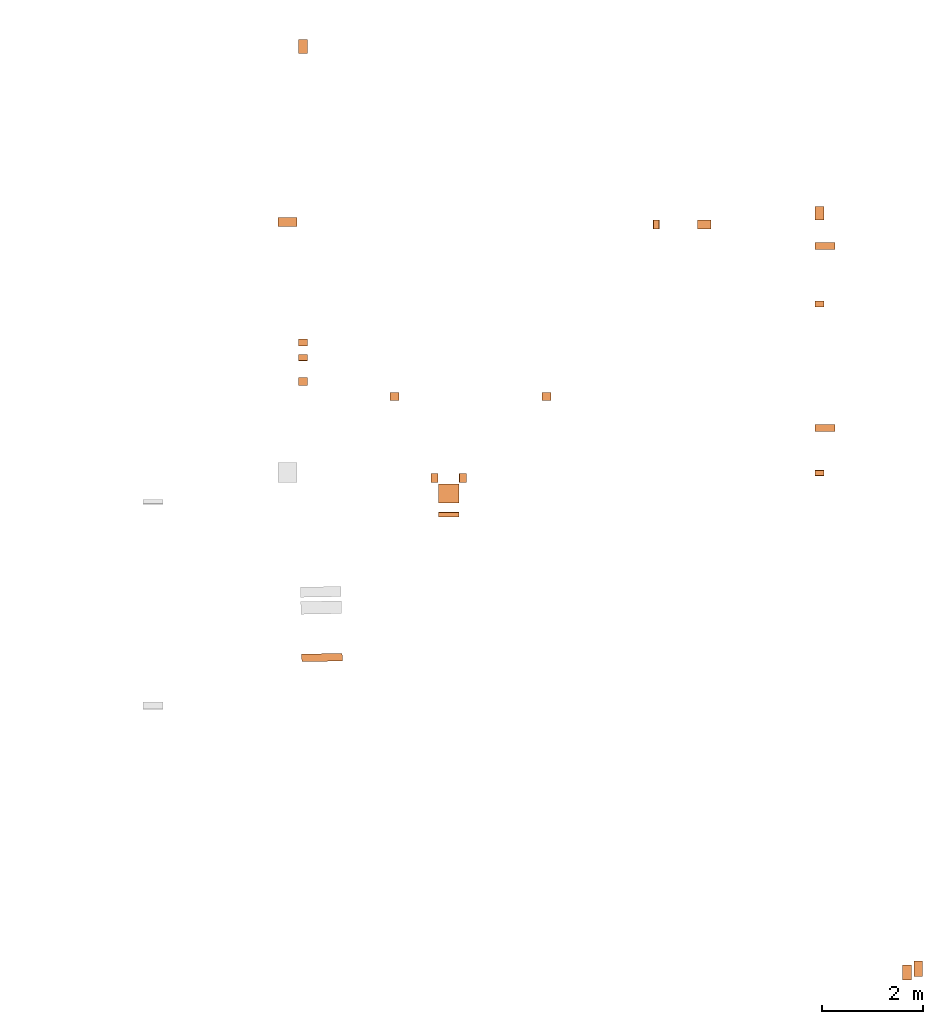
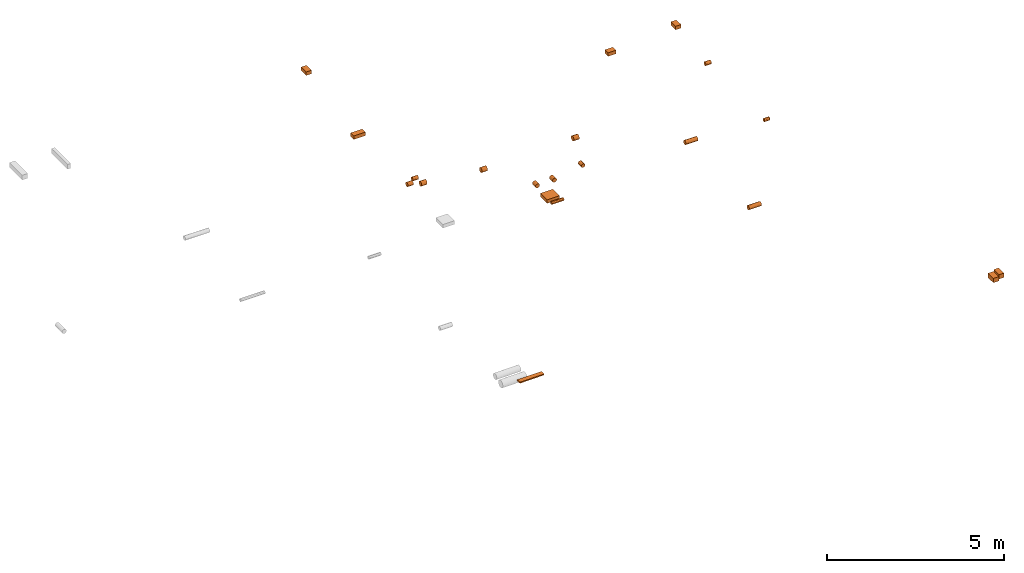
# One storey, part 6 of 7: 24 proxies.
"""IFC2X3 building model written with IfcOpenShell, lengths in centimetres."""

from ifc_helpers import new_model, entity, si_unit, converted_unit, derived_unit, direction, frame, frame_2d, origin, origin_2d_with_axis, place, context, subcontext, project, spatial, rectangle, circle, extrude, faceted_brep, source, transform, mapped, material, type_object, type_shapes, element, save


model = new_model("IFC2X3")

# Units and contexts
model_context = context("Model", 3, precision=0.001, world=origin(), true_north=direction((6.12303176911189e-17, 1.0)))
body_context = subcontext(model_context, "Body", "Model", "MODEL_VIEW")
ifc_project = project(units=[si_unit("LENGTHUNIT", "METRE", prefix="CENTI"), si_unit("AREAUNIT", "SQUARE_METRE"), si_unit("VOLUMEUNIT", "CUBIC_METRE"), converted_unit("PLANEANGLEUNIT", "DEGREE", entity("IfcRatioMeasure", 0.0174532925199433), si_unit("PLANEANGLEUNIT", "RADIAN"), dimensions=[0, 0, 0, 0, 0, 0, 0]), si_unit("MASSUNIT", "GRAM", prefix="KILO"), derived_unit("MASSDENSITYUNIT", [(si_unit("MASSUNIT", "GRAM", prefix="KILO"), 1), (si_unit("LENGTHUNIT", "METRE"), -3)]), si_unit("TIMEUNIT", "SECOND"), si_unit("FREQUENCYUNIT", "HERTZ"), si_unit("THERMODYNAMICTEMPERATUREUNIT", "DEGREE_CELSIUS"), derived_unit("THERMALTRANSMITTANCEUNIT", [(si_unit("MASSUNIT", "GRAM", prefix="KILO"), 1), (si_unit("THERMODYNAMICTEMPERATUREUNIT", "KELVIN"), -1), (si_unit("TIMEUNIT", "SECOND"), -3)]), derived_unit("VOLUMETRICFLOWRATEUNIT", [(si_unit("LENGTHUNIT", "METRE"), 3), (si_unit("TIMEUNIT", "SECOND"), -1)]), si_unit("ELECTRICCURRENTUNIT", "AMPERE"), si_unit("ELECTRICVOLTAGEUNIT", "VOLT"), si_unit("POWERUNIT", "WATT"), si_unit("FORCEUNIT", "NEWTON"), si_unit("ILLUMINANCEUNIT", "LUX"), si_unit("LUMINOUSFLUXUNIT", "LUMEN"), si_unit("LUMINOUSINTENSITYUNIT", "CANDELA"), derived_unit("USERDEFINED", [(si_unit("MASSUNIT", "GRAM", prefix="KILO"), -1), (si_unit("LENGTHUNIT", "METRE"), -2), (si_unit("TIMEUNIT", "SECOND"), 3), (si_unit("LUMINOUSFLUXUNIT", "LUMEN"), 1)]), derived_unit("LINEARVELOCITYUNIT", [(si_unit("LENGTHUNIT", "METRE"), 1), (si_unit("TIMEUNIT", "SECOND"), -1)]), si_unit("PRESSUREUNIT", "PASCAL"), derived_unit("USERDEFINED", [(si_unit("LENGTHUNIT", "METRE"), -2), (si_unit("MASSUNIT", "GRAM", prefix="KILO"), 1), (si_unit("TIMEUNIT", "SECOND"), -2)])], contexts=[model_context])

# Site, building, storey
site_placement = place(None, origin())
site = spatial("IfcSite", under=ifc_project, at=site_placement, Name="Default", CompositionType="ELEMENT")
building_placement = place(site_placement, origin())
building = spatial("IfcBuilding", under=site, at=building_placement, Name="CAGE 03", CompositionType="ELEMENT")
storey_placement = place(building_placement, origin())
storey = spatial("IfcBuildingStorey", under=building, at=storey_placement, Name="RDC", CompositionType="ELEMENT", Elevation=-1.08286712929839e-13)

# Proxies
ifc_material = material(Name="Verre")
building_element_proxy_type_1 = type_object("IfcBuildingElementProxyType", Name="Standard", PredefinedType="NOTDEFINED", material=ifc_material)
shared_shape_1 = source(origin(), body_context, "Body", "SweptSolid", [
    extrude(circle(Radius=8.0, at=frame_2d((4.97439393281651e-16, -3.60169955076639e-14), x_axis=(1.0, 0.0))), frame((0.0, -9.0, 0.0), z_axis=(0.0, 1.0, 0.0), x_axis=(1.0, 0.0, 0.0)), (0.0, 0.0, 1.0), 18.0000000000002),
])
type_shapes(building_element_proxy_type_1, [shared_shape_1])
proxy_1_placement = place(storey_placement, frame((10199.3658201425, 4551.174449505, 281.375909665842), z_axis=(0.0, 0.0, 1.0), x_axis=(0.0, 1.0, 0.0)))
element("IfcBuildingElementProxy", 1, at=proxy_1_placement, inside=storey, type_object=building_element_proxy_type_1, material=ifc_material, Name="RESERVATION CIRC_MUR:Standard", ObjectType="Standard", context=body_context, shape_type="MappedRepresentation", body=[
    mapped(shared_shape_1, transform((0.0, 0.0, 0.0), scale=1.0)),
])
building_element_proxy_type_2 = type_object("IfcBuildingElementProxyType", Name="Standard", PredefinedType="NOTDEFINED", material=ifc_material)
shared_shape_2 = source(origin(), body_context, "Body", "SweptSolid", [
    extrude(circle(Radius=8.0, at=frame_2d((4.97439393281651e-16, -3.60169955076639e-14), x_axis=(1.0, 0.0))), frame((0.0, -9.0, 0.0), z_axis=(0.0, 1.0, 0.0), x_axis=(1.0, 0.0, 0.0)), (0.0, 0.0, 1.0), 17.9999999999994),
])
type_shapes(building_element_proxy_type_2, [shared_shape_2])
proxy_2_placement = place(storey_placement, frame((10499.3658201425, 4551.174449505, 285.79850022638), z_axis=(0.0, 0.0, 1.0), x_axis=(0.0, 1.0, 0.0)))
element("IfcBuildingElementProxy", 2, at=proxy_2_placement, inside=storey, type_object=building_element_proxy_type_2, material=ifc_material, Name="RESERVATION CIRC_MUR:Standard", ObjectType="Standard", context=body_context, shape_type="MappedRepresentation", body=[
    mapped(shared_shape_2, transform((0.0, 0.0, 0.0), scale=1.0)),
])
building_element_proxy_type_3 = type_object("IfcBuildingElementProxyType", Name="Standard", PredefinedType="NOTDEFINED", material=ifc_material)
shared_shape_3 = source(origin(), body_context, "Body", "SweptSolid", [
    extrude(circle(Radius=6.99999999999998, at=frame_2d((-3.48550551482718e-16, -3.15148710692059e-14), x_axis=(1.0, 0.0))), frame((0.0, -9.0, 0.0), z_axis=(0.0, 1.0, 0.0), x_axis=(1.0, 0.0, 0.0)), (0.0, 0.0, 1.0), 17.9999999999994),
])
type_shapes(building_element_proxy_type_3, [shared_shape_3])
proxy_3_placement = place(storey_placement, frame((10278.5248687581, 4390.66066607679, 298.804303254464), z_axis=(0.0, 0.0, 1.0), x_axis=(-1.0, 0.0, 0.0)))
element("IfcBuildingElementProxy", 3, at=proxy_3_placement, inside=storey, type_object=building_element_proxy_type_3, material=ifc_material, Name="RESERVATION CIRC_MUR:Standard", ObjectType="Standard", context=body_context, shape_type="MappedRepresentation", body=[
    mapped(shared_shape_3, transform((0.0, 0.0, 0.0), scale=1.0)),
])
building_element_proxy_type_4 = type_object("IfcBuildingElementProxyType", Name="Standard", PredefinedType="NOTDEFINED", material=ifc_material)
shared_shape_4 = source(origin(), body_context, "Body", "SweptSolid", [
    extrude(circle(Radius=7.0, at=frame_2d((0.0, -4.06075173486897e-14), x_axis=(1.0, 0.0))), frame((11028.3658201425, 4848.14153004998, -96.9143133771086), z_axis=(1.0, 0.0, 0.0), x_axis=(0.0, -1.0, 0.0)), (0.0, 0.0, 1.0), 40.0000000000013),
])
type_shapes(building_element_proxy_type_4, [shared_shape_4])
proxy_4_placement = place(storey_placement, origin())
element("IfcBuildingElementProxy", 4, at=proxy_4_placement, inside=storey, type_object=building_element_proxy_type_4, material=ifc_material, Name="RESERVATION CIRC_MUR:Standard", ObjectType="Standard", context=body_context, shape_type="MappedRepresentation", body=[
    mapped(shared_shape_4, transform((0.0, 0.0, 0.0), scale=1.0)),
])
building_element_proxy_type_5 = type_object("IfcBuildingElementProxyType", Name="Standard", PredefinedType="NOTDEFINED", material=ifc_material)
shared_shape_5 = source(origin(), body_context, "Body", "SweptSolid", [
    extrude(circle(Radius=7.0, at=frame_2d((0.0, -4.06075173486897e-14), x_axis=(1.0, 0.0))), frame((11028.3658201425, 4489.26662740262, -104.298078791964), z_axis=(1.0, 0.0, 0.0), x_axis=(0.0, -1.0, 0.0)), (0.0, 0.0, 1.0), 40.0000000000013),
])
type_shapes(building_element_proxy_type_5, [shared_shape_5])
proxy_5_placement = place(storey_placement, origin())
element("IfcBuildingElementProxy", 5, at=proxy_5_placement, inside=storey, type_object=building_element_proxy_type_5, material=ifc_material, Name="RESERVATION CIRC_MUR:Standard", ObjectType="Standard", context=body_context, shape_type="MappedRepresentation", body=[
    mapped(shared_shape_5, transform((0.0, 0.0, 0.0), scale=1.0)),
])
building_element_proxy_type_6 = type_object("IfcBuildingElementProxyType", Name="Standard", PredefinedType="NOTDEFINED", material=ifc_material)
shared_shape_6 = source(origin(), body_context, "Body", "SweptSolid", [
    extrude(circle(Radius=6.25, at=frame_2d((0.0, -1.35358391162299e-14), x_axis=(1.0, 0.0))), frame((10715.9863716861, 4881.66066607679, -87.7200000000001), z_axis=(0.0, 1.0, 0.0), x_axis=(-1.0, 0.0, 0.0)), (0.0, 0.0, 1.0), 17.9999999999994),
])
type_shapes(building_element_proxy_type_6, [shared_shape_6])
proxy_6_placement = place(storey_placement, origin())
element("IfcBuildingElementProxy", 6, at=proxy_6_placement, inside=storey, type_object=building_element_proxy_type_6, material=ifc_material, Name="RESERVATION CIRC_MUR:Standard", ObjectType="Standard", context=body_context, shape_type="MappedRepresentation", body=[
    mapped(shared_shape_6, transform((0.0, 0.0, 0.0), scale=1.0)),
])
building_element_proxy_type_7 = type_object("IfcBuildingElementProxyType", Name="Standard", PredefinedType="NOTDEFINED", material=ifc_material)
shared_shape_7 = source(origin(), body_context, "Body", "SweptSolid", [
    extrude(circle(Radius=8.0, at=frame_2d((4.97439393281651e-16, -3.60169955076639e-14), x_axis=(1.0, 0.0))), frame((0.0, -9.0, 0.0), z_axis=(0.0, 1.0, 0.0), x_axis=(1.0, 0.0, 0.0)), (0.0, 0.0, 1.0), 17.9999999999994),
])
type_shapes(building_element_proxy_type_7, [shared_shape_7])
proxy_7_placement = place(storey_placement, frame((10019.3658201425, 4580.93360456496, 279.202377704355), z_axis=(0.0, 0.0, 1.0), x_axis=(0.0, 1.0, 0.0)))
element("IfcBuildingElementProxy", 7, at=proxy_7_placement, inside=storey, type_object=building_element_proxy_type_7, material=ifc_material, Name="RESERVATION CIRC_MUR1:Standard", ObjectType="Standard", context=body_context, shape_type="MappedRepresentation", body=[
    mapped(shared_shape_7, transform((0.0, 0.0, 0.0), scale=1.0)),
])
building_element_proxy_type_8 = type_object("IfcBuildingElementProxyType", Name="Standard", PredefinedType="NOTDEFINED", material=ifc_material)
shared_shape_8 = source(origin(), body_context, "Body", "SweptSolid", [
    extrude(circle(Radius=8.0, at=frame_2d((4.97439393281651e-16, -3.60169955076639e-14), x_axis=(1.0, 0.0))), frame((0.0, -9.0, 0.0), z_axis=(0.0, 1.0, 0.0), x_axis=(1.0, 0.0, 0.0)), (0.0, 0.0, 1.0), 17.9999999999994),
])
type_shapes(building_element_proxy_type_8, [shared_shape_8])
proxy_8_placement = place(storey_placement, frame((10199.3658201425, 4551.174449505, 281.375909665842), z_axis=(0.0, 0.0, 1.0), x_axis=(0.0, 1.0, 0.0)))
element("IfcBuildingElementProxy", 8, at=proxy_8_placement, inside=storey, type_object=building_element_proxy_type_8, material=ifc_material, Name="RESERVATION CIRC_MUR1:Standard", ObjectType="Standard", context=body_context, shape_type="MappedRepresentation", body=[
    mapped(shared_shape_8, transform((0.0, 0.0, 0.0), scale=1.0)),
])
building_element_proxy_type_9 = type_object("IfcBuildingElementProxyType", Name="Standard", PredefinedType="NOTDEFINED", material=ifc_material)
shared_shape_9 = source(origin(), body_context, "Body", "SweptSolid", [
    extrude(circle(Radius=8.0, at=frame_2d((4.97439393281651e-16, -3.60169955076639e-14), x_axis=(1.0, 0.0))), frame((0.0, -9.0, 0.0), z_axis=(0.0, 1.0, 0.0), x_axis=(1.0, 0.0, 0.0)), (0.0, 0.0, 1.0), 17.9999999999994),
])
type_shapes(building_element_proxy_type_9, [shared_shape_9])
proxy_9_placement = place(storey_placement, frame((10499.3658201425, 4551.174449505, 285.79850022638), z_axis=(0.0, 0.0, 1.0), x_axis=(0.0, 1.0, 0.0)))
element("IfcBuildingElementProxy", 9, at=proxy_9_placement, inside=storey, type_object=building_element_proxy_type_9, material=ifc_material, Name="RESERVATION CIRC_MUR1:Standard", ObjectType="Standard", context=body_context, shape_type="MappedRepresentation", body=[
    mapped(shared_shape_9, transform((0.0, 0.0, 0.0), scale=1.0)),
])
building_element_proxy_type_10 = type_object("IfcBuildingElementProxyType", Name="Standard", PredefinedType="NOTDEFINED", material=ifc_material)
shared_shape_10 = source(origin(), body_context, "Body", "SweptSolid", [
    extrude(circle(Radius=6.99999999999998, at=frame_2d((-3.48550551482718e-16, -3.15148710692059e-14), x_axis=(1.0, 0.0))), frame((0.0, -9.0, 0.0), z_axis=(0.0, 1.0, 0.0), x_axis=(1.0, 0.0, 0.0)), (0.0, 0.0, 1.0), 17.9999999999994),
])
type_shapes(building_element_proxy_type_10, [shared_shape_10])
for number, where, z_axis, x_axis, name in (
    (10, (10278.5248687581, 4390.66066607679, 298.804303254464), (0.0, 0.0, 1.0), (-1.0, 0.0, 0.0), "RESERVATION CIRC_MUR1:Standard"),
    (11, (10334.2276484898, 4390.66066607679, 298.804303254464), (0.0, 0.0, 1.0), (-1.0, 0.0, 0.0), "RESERVATION CIRC_MUR1:Standard"),
):
    element("IfcBuildingElementProxy", number, at=place(storey_placement, frame(where, z_axis=z_axis, x_axis=x_axis)), inside=storey, type_object=building_element_proxy_type_10, material=ifc_material, Name=name, ObjectType="Standard", context=body_context, shape_type="MappedRepresentation", body=[
        mapped(shared_shape_10, transform((0.0, 0.0, 0.0), scale=1.0)),
    ])
building_element_proxy_type_11 = type_object("IfcBuildingElementProxyType", Name="Standard", PredefinedType="NOTDEFINED", material=ifc_material)
shared_shape_11 = source(origin(), body_context, "Body", "SweptSolid", [
    extrude(rectangle(XDim=17.9999999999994, YDim=30.0000000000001, at=origin_2d_with_axis()), frame((11210.3658201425, 3415.87086734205, 235.513701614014)), (0.0, 0.0, 1.0), 15.0),
])
type_shapes(building_element_proxy_type_11, [shared_shape_11])
proxy_10_placement = place(storey_placement, origin())
element("IfcBuildingElementProxy", 12, at=proxy_10_placement, inside=storey, type_object=building_element_proxy_type_11, material=ifc_material, Name="RESERVATION RECT_MUR:Standard", ObjectType="Standard", context=body_context, shape_type="MappedRepresentation", body=[
    mapped(shared_shape_11, transform((0.0, 0.0, 0.0), scale=1.0)),
])
building_element_proxy_type_12 = type_object("IfcBuildingElementProxyType", Name="Standard", PredefinedType="NOTDEFINED", material=ifc_material)
shared_shape_12 = source(origin(), body_context, "Body", "SweptSolid", [
    extrude(circle(Radius=6.25, at=frame_2d((-3.48550551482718e-16, -2.81382777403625e-14), x_axis=(1.0, 0.0))), frame((0.0, -9.0, 0.0), z_axis=(0.0, 1.0, 0.0), x_axis=(1.0, 0.0, 0.0)), (0.0, 0.0, 1.0), 17.9999999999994),
])
type_shapes(building_element_proxy_type_12, [shared_shape_12])
proxy_11_placement = place(storey_placement, frame((11037.3658201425, 4733.6606661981, 244.761146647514), z_axis=(0.0, 0.0, 1.0), x_axis=(0.0, 1.0, 0.0)))
element("IfcBuildingElementProxy", 13, at=proxy_11_placement, inside=storey, type_object=building_element_proxy_type_12, material=ifc_material, Name="RESERVATION CIRC_MUR1:Standard", ObjectType="Standard", context=body_context, shape_type="MappedRepresentation", body=[
    mapped(shared_shape_12, transform((0.0, 0.0, 0.0), scale=1.0)),
])
building_element_proxy_type_13 = type_object("IfcBuildingElementProxyType", Name="Standard", PredefinedType="NOTDEFINED", material=ifc_material)
shared_shape_13 = source(origin(), body_context, "Body", "SweptSolid", [
    extrude(rectangle(XDim=17.9999999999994, YDim=28.0, at=origin_2d_with_axis()), frame((0.0, 0.0, -6.0), z_axis=(0.0, 0.0, 1.0), x_axis=(0.0, 1.0, 0.0)), (0.0, 0.0, 1.0), 12.0),
])
type_shapes(building_element_proxy_type_13, [shared_shape_13])
proxy_12_placement = place(storey_placement, frame((10019.3658201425, 5241.42214991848, 267.09), z_axis=(0.0, 0.0, 1.0), x_axis=(0.0, 1.0, 0.0)))
element("IfcBuildingElementProxy", 14, at=proxy_12_placement, inside=storey, type_object=building_element_proxy_type_13, material=ifc_material, Name="RESERVATION RECT_MUR:Standard", ObjectType="Standard", context=body_context, shape_type="MappedRepresentation", body=[
    mapped(shared_shape_13, transform((0.0, 0.0, 0.0), scale=1.0)),
])
building_element_proxy_type_14 = type_object("IfcBuildingElementProxyType", Name="Standard", PredefinedType="NOTDEFINED", material=ifc_material)
shared_shape_14 = source(origin(), body_context, "Body", "SweptSolid", [
    extrude(rectangle(XDim=17.9999999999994, YDim=38.0, at=origin_2d_with_axis()), frame((0.0, 0.0, -6.0), z_axis=(0.0, 0.0, 1.0), x_axis=(0.0, 1.0, 0.0)), (0.0, 0.0, 1.0), 12.0),
])
type_shapes(building_element_proxy_type_14, [shared_shape_14])
proxy_13_placement = place(storey_placement, frame((9988.56568592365, 4895.66066607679, 267.09), z_axis=(0.0, 0.0, 1.0), x_axis=(-1.0, 0.0, 0.0)))
element("IfcBuildingElementProxy", 15, at=proxy_13_placement, inside=storey, type_object=building_element_proxy_type_14, material=ifc_material, Name="RESERVATION RECT_MUR:Standard", ObjectType="Standard", context=body_context, shape_type="MappedRepresentation", body=[
    mapped(shared_shape_14, transform((0.0, 0.0, 0.0), scale=1.0)),
])
building_element_proxy_type_15 = type_object("IfcBuildingElementProxyType", Name="Standard", PredefinedType="NOTDEFINED", material=ifc_material)
shared_shape_15 = source(origin(), body_context, "Body", "SweptSolid", [
    extrude(rectangle(XDim=40.0000000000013, YDim=38.0, at=frame_2d((0.0, -4.33431068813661e-13), x_axis=(1.0, 0.0))), frame((10306.3658201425, 4360.14259670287, 260.150523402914)), (0.0, 0.0, 1.0), 12.0),
])
type_shapes(building_element_proxy_type_15, [shared_shape_15])
proxy_14_placement = place(storey_placement, origin())
element("IfcBuildingElementProxy", 16, at=proxy_14_placement, inside=storey, type_object=building_element_proxy_type_15, material=ifc_material, Name="RESERVATION RECT_MUR:Standard", ObjectType="Standard", context=body_context, shape_type="MappedRepresentation", body=[
    mapped(shared_shape_15, transform((0.0, 0.0, 0.0), scale=1.0)),
])
building_element_proxy_type_16 = type_object("IfcBuildingElementProxyType", Name="Standard", PredefinedType="NOTDEFINED", material=ifc_material)
shared_shape_16 = source(origin(), body_context, "Body", "SweptSolid", [
    extrude(rectangle(XDim=17.9999999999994, YDim=26.0, at=origin_2d_with_axis()), frame((0.0, 0.0, -6.0), z_axis=(0.0, 0.0, 1.0), x_axis=(0.0, 1.0, 0.0)), (0.0, 0.0, 1.0), 12.0),
])
type_shapes(building_element_proxy_type_16, [shared_shape_16])
for number, where, z_axis, x_axis, name in (
    (17, (10810.5240841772, 4890.66066607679, 267.076580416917), (0.0, 0.0, 1.0), (-1.0, 0.0, 0.0), "RESERVATION RECT_MUR:Standard"),
    (18, (11037.3658201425, 4912.66066607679, 267.076580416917), (0.0, 0.0, 1.0), (0.0, -1.0, 0.0), "RESERVATION RECT_MUR:Standard"),
):
    element("IfcBuildingElementProxy", number, at=place(storey_placement, frame(where, z_axis=z_axis, x_axis=x_axis)), inside=storey, type_object=building_element_proxy_type_16, material=ifc_material, Name=name, ObjectType="Standard", context=body_context, shape_type="MappedRepresentation", body=[
        mapped(shared_shape_16, transform((0.0, 0.0, 0.0), scale=1.0)),
    ])
building_element_proxy_type_17 = type_object("IfcBuildingElementProxyType", Name="Standard", PredefinedType="NOTDEFINED", material=ifc_material)
shared_shape_17 = source(origin(), body_context, "Body", "SweptSolid", [
    extrude(circle(Radius=6.25, at=frame_2d((-3.48550551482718e-16, -2.81382777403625e-14), x_axis=(1.0, 0.0))), frame((0.0, -9.0, 0.0), z_axis=(0.0, 1.0, 0.0), x_axis=(1.0, 0.0, 0.0)), (0.0, 0.0, 1.0), 17.9999999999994),
])
type_shapes(building_element_proxy_type_17, [shared_shape_17])
proxy_15_placement = place(storey_placement, frame((10019.3658201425, 4627.93363620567, 267.0), z_axis=(0.0, 0.0, 1.0), x_axis=(0.0, 1.0, 0.0)))
element("IfcBuildingElementProxy", 19, at=proxy_15_placement, inside=storey, type_object=building_element_proxy_type_17, material=ifc_material, Name="RESERVATION CIRC_MUR1:Standard", ObjectType="Standard", context=body_context, shape_type="MappedRepresentation", body=[
    mapped(shared_shape_17, transform((0.0, 0.0, 0.0), scale=1.0)),
])
building_element_proxy_type_18 = type_object("IfcBuildingElementProxyType", Name="Standard", PredefinedType="NOTDEFINED", material=ifc_material)
shared_shape_18 = source(origin(), body_context, "Body", "SweptSolid", [
    extrude(circle(Radius=7.0, at=frame_2d((-3.48550551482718e-16, -3.1514871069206e-14), x_axis=(1.0, 0.0))), frame((0.0, -9.0, 0.0), z_axis=(0.0, 1.0, 0.0), x_axis=(1.0, 0.0, 0.0)), (0.0, 0.0, 1.0), 17.9999999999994),
])
type_shapes(building_element_proxy_type_18, [shared_shape_18])
proxy_16_placement = place(storey_placement, frame((10019.3658201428, 4657.40894339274, 230.003429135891), z_axis=(0.0, 0.0, 1.0), x_axis=(0.0, 1.0, 0.0)))
element("IfcBuildingElementProxy", 20, at=proxy_16_placement, inside=storey, type_object=building_element_proxy_type_18, material=ifc_material, Name="RESERVATION CIRC_MUR1:Standard", ObjectType="Standard", context=body_context, shape_type="MappedRepresentation", body=[
    mapped(shared_shape_18, transform((0.0, 0.0, 0.0), scale=1.0)),
])
building_element_proxy_type_19 = type_object("IfcBuildingElementProxyType", Name="Standard", PredefinedType="NOTDEFINED", material=ifc_material)
shared_shape_19 = source(origin(), body_context, "Body", "SweptSolid", [
    extrude(rectangle(XDim=15.9999999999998, YDim=30.0000000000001, at=frame_2d((-0.833333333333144, 3.29514193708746e-13), x_axis=(1.0, 0.0))), frame((11233.1991534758, 3423.10809939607, 236.0)), (0.0, 0.0, 1.0), 15.0),
])
type_shapes(building_element_proxy_type_19, [shared_shape_19])
proxy_17_placement = place(storey_placement, origin())
element("IfcBuildingElementProxy", 21, at=proxy_17_placement, inside=storey, type_object=building_element_proxy_type_19, material=ifc_material, Name="RESERVATION RECT_MUR:Standard", ObjectType="Standard", context=body_context, shape_type="MappedRepresentation", body=[
    mapped(shared_shape_19, transform((0.0, 0.0, 0.0), scale=1.0)),
])
building_element_proxy_type_20 = type_object("IfcBuildingElementProxyType", Name="Standard", PredefinedType="NOTDEFINED")
shared_shape_20 = source(origin(), body_context, "Body", "Brep", [
    faceted_brep([(7.5000000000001, -40.0, 1.87500000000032), (-7.49999999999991, -40.0, 1.87500000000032), (-7.49999999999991, -40.0, -1.87499999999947), (7.5000000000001, -40.0, -1.87499999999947), (7.5000000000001, 40.0, -1.87499999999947), (7.5000000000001, 40.0, 1.87500000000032), (-7.49999999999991, 40.0, 1.87500000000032), (-7.49999999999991, 40.0, -1.87499999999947)], [[[0, 1, 2, 3]], [[0, 3, 4, 5]], [[1, 0, 5, 6]], [[3, 2, 7, 4]], [[2, 1, 6, 7]], [[5, 4, 7, 6]]]),
])
type_shapes(building_element_proxy_type_20, [shared_shape_20])
proxy_18_placement = place(storey_placement, frame((10056.6980373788, 4036.633634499, -75.8750000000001), z_axis=(0.0, 0.0, 1.0), x_axis=(0.0183302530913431, -0.999831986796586, 0.0)))
element("IfcBuildingElementProxy", 22, at=proxy_18_placement, inside=storey, type_object=building_element_proxy_type_20, Name="RESERVATION RECT_MUR1:Standard", ObjectType="Standard", context=body_context, shape_type="MappedRepresentation", body=[
    mapped(shared_shape_20, transform((0.0, 0.0, 0.0), scale=1.0)),
])
building_element_proxy_type_21 = type_object("IfcBuildingElementProxyType", Name="Standard", PredefinedType="NOTDEFINED", material=ifc_material)
shared_shape_21 = source(origin(), body_context, "Body", "SweptSolid", [
    extrude(circle(Radius=5.5, at=frame_2d((-3.48550551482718e-16, -2.4761684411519e-14), x_axis=(1.0, 0.0))), frame((0.0, -9.0, 0.0), z_axis=(0.0, 1.0, 0.0), x_axis=(1.0, 0.0, 0.0)), (0.0, 0.0, 1.0), 17.9999999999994),
])
type_shapes(building_element_proxy_type_21, [shared_shape_21])
proxy_19_placement = place(storey_placement, frame((11037.3658201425, 4400.57500540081, 251.76), z_axis=(0.0, 0.0, 1.0), x_axis=(0.0, 1.0, 0.0)))
element("IfcBuildingElementProxy", 23, at=proxy_19_placement, inside=storey, type_object=building_element_proxy_type_21, material=ifc_material, Name="RESERVATION CIRC_MUR1:Standard", ObjectType="Standard", context=body_context, shape_type="MappedRepresentation", body=[
    mapped(shared_shape_21, transform((0.0, 0.0, 0.0), scale=1.0)),
])
building_element_proxy_type_22 = type_object("IfcBuildingElementProxyType", Name="Standard", PredefinedType="NOTDEFINED", material=ifc_material)
shared_shape_22 = source(origin(), body_context, "Body", "SweptSolid", [
    extrude(circle(Radius=5.0, at=origin_2d_with_axis()), frame((10286.3658201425, 4318.66066607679, 275.0), z_axis=(1.0, 0.0, 0.0), x_axis=(0.0, -1.0, 0.0)), (0.0, 0.0, 1.0), 40.0000000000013),
])
type_shapes(building_element_proxy_type_22, [shared_shape_22])
proxy_20_placement = place(storey_placement, origin())
element("IfcBuildingElementProxy", 24, at=proxy_20_placement, inside=storey, type_object=building_element_proxy_type_22, material=ifc_material, Name="RESERVATION CIRC_MUR:Standard", ObjectType="Standard", context=body_context, shape_type="MappedRepresentation", body=[
    mapped(shared_shape_22, transform((0.0, 0.0, 0.0), scale=1.0)),
])

save(model, "model.ifc")
